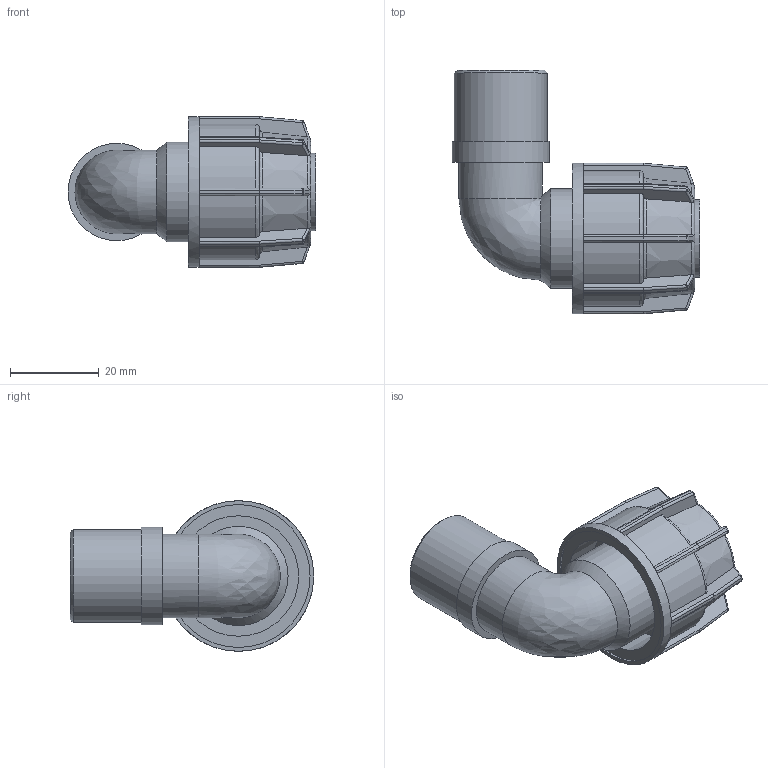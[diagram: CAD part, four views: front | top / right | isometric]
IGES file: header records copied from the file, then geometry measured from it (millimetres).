
Global section: file name: 048507016005.ipt; native system: Autodesk Inventor 2015; preprocessor: unknown; author: KIM; date: 20180409.130658; units: millimetre
Bounding box: 56 x 55 x 34 mm (x, y, z)
Volume: 17811.2 mm3; surface area: 13494.5 mm2
Topology: 1 solids, 1 shells, 275 faces, 658 edges, 382 vertices
Faces by surface type: plane 130, cylinder 78, sphere 32, revolution 24, cone 10, bspline 1
Full cylindrical faces by diameter (mm): 17.6 x1, 18.86 x1, 20.955 x1, 22.003 x1, 22.4 x1, 34 x1
